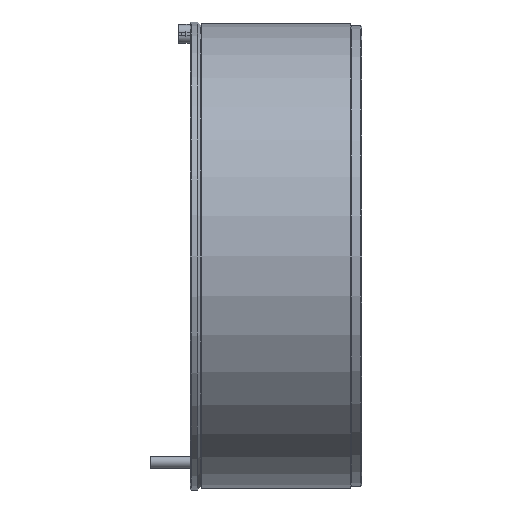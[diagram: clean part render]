
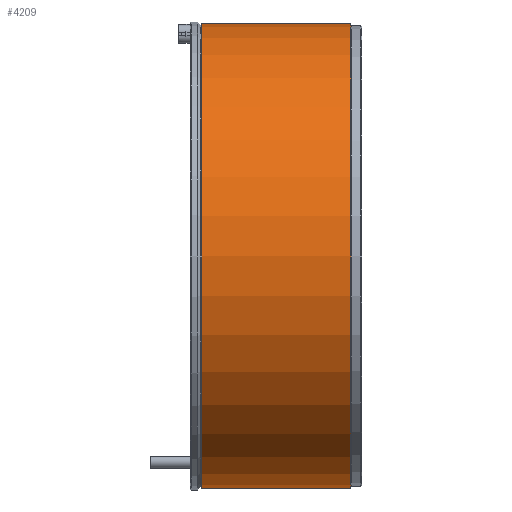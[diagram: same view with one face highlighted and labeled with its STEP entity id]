
A CAD part, left-side view. The second image highlights one B-rep face of the part: STEP entity #4209.
In plain terms, the highlighted cylindrical face has radius 284 mm (diameter 568 mm), a partial arc.
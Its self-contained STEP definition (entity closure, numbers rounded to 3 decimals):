
#35 = EDGE_CURVE ( 'NONE', #9246, #5462, #8136, .T. ) ;
#38 = CARTESIAN_POINT ( 'NONE',  ( 0., 196., -284. ) ) ;
#182 = CARTESIAN_POINT ( 'NONE',  ( 0., 0., -284. ) ) ;
#1801 = CIRCLE ( 'NONE', #8142, 284. ) ;
#1866 = DIRECTION ( 'NONE',  ( 0., -1., 0. ) ) ;
#3037 = DIRECTION ( 'NONE',  ( 0., 0., -1. ) ) ;
#3272 = CARTESIAN_POINT ( 'NONE',  ( 0., 196., 0. ) ) ;
#3408 = LINE ( 'NONE', #182, #10933 ) ;
#3866 = EDGE_LOOP ( 'NONE', ( #13100, #6147, #6487, #10326 ) ) ;
#4131 = DIRECTION ( 'NONE',  ( 0., -1., 0. ) ) ;
#4209 = ADVANCED_FACE ( 'NONE', ( #12583 ), #9728, .T. ) ;
#4352 = VERTEX_POINT ( 'NONE', #38 ) ;
#4515 = DIRECTION ( 'NONE',  ( 0., -1., 0. ) ) ;
#4520 = VECTOR ( 'NONE', #1866, 1000. ) ;
#4636 = CIRCLE ( 'NONE', #12729, 284. ) ;
#4793 = EDGE_CURVE ( 'NONE', #9246, #4352, #4636, .T. ) ;
#4992 = CARTESIAN_POINT ( 'NONE',  ( 0., 13.5, 284. ) ) ;
#5072 = CARTESIAN_POINT ( 'NONE',  ( 0., 13.5, -284. ) ) ;
#5462 = VERTEX_POINT ( 'NONE', #4992 ) ;
#6147 = ORIENTED_EDGE ( 'NONE', *, *, #4793, .T. ) ;
#6446 = DIRECTION ( 'NONE',  ( 0., 0., -1. ) ) ;
#6466 = DIRECTION ( 'NONE',  ( 0., -1., 0. ) ) ;
#6487 = ORIENTED_EDGE ( 'NONE', *, *, #11638, .T. ) ;
#8136 = LINE ( 'NONE', #13867, #4520 ) ;
#8142 = AXIS2_PLACEMENT_3D ( 'NONE', #9659, #6466, #3037 ) ;
#9246 = VERTEX_POINT ( 'NONE', #9425 ) ;
#9425 = CARTESIAN_POINT ( 'NONE',  ( 0., 196., 284. ) ) ;
#9429 = EDGE_CURVE ( 'NONE', #5462, #11370, #1801, .T. ) ;
#9659 = CARTESIAN_POINT ( 'NONE',  ( 0., 13.5, 0. ) ) ;
#9728 = CYLINDRICAL_SURFACE ( 'NONE', #10333, 284. ) ;
#10326 = ORIENTED_EDGE ( 'NONE', *, *, #9429, .F. ) ;
#10333 = AXIS2_PLACEMENT_3D ( 'NONE', #14007, #4131, #11798 ) ;
#10933 = VECTOR ( 'NONE', #4515, 1000. ) ;
#11370 = VERTEX_POINT ( 'NONE', #5072 ) ;
#11638 = EDGE_CURVE ( 'NONE', #4352, #11370, #3408, .T. ) ;
#11798 = DIRECTION ( 'NONE',  ( 0., 0., -1. ) ) ;
#11919 = DIRECTION ( 'NONE',  ( 0., -1., 0. ) ) ;
#12583 = FACE_OUTER_BOUND ( 'NONE', #3866, .T. ) ;
#12729 = AXIS2_PLACEMENT_3D ( 'NONE', #3272, #11919, #6446 ) ;
#13100 = ORIENTED_EDGE ( 'NONE', *, *, #35, .F. ) ;
#13867 = CARTESIAN_POINT ( 'NONE',  ( 0., 0., 284. ) ) ;
#14007 = CARTESIAN_POINT ( 'NONE',  ( 0., 0., 0. ) ) ;
